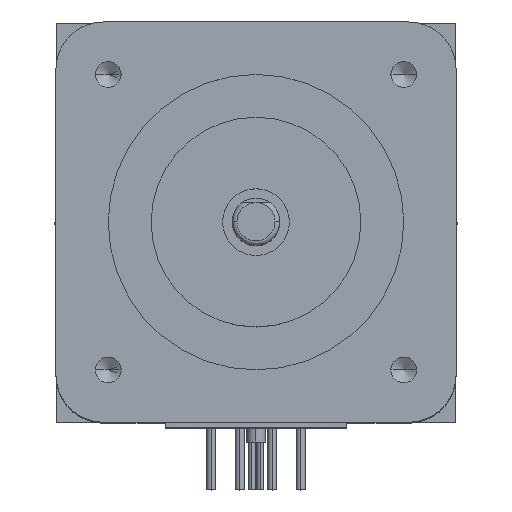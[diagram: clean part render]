
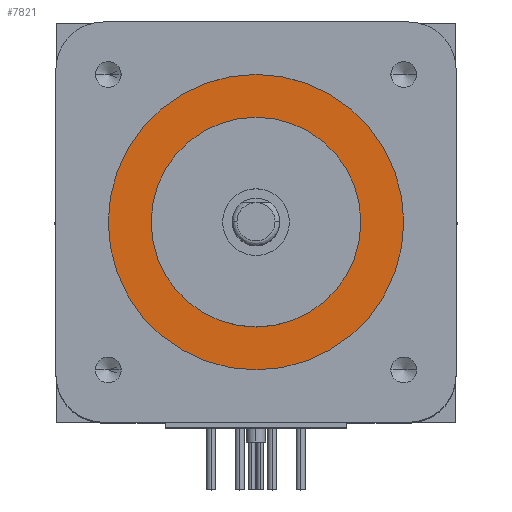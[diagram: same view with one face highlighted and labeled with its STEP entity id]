
A CAD part, top view. The second image highlights one B-rep face of the part: STEP entity #7821.
In plain terms, the highlighted planar face has unit normal (0, 0, 1).
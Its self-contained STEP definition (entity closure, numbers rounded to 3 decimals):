
#26 = EDGE_CURVE ( 'NONE', #1053, #608, #937, .T. ) ;
#192 = DIRECTION ( 'NONE',  ( 0., 0., 1. ) ) ;
#329 = FACE_BOUND ( 'NONE', #7338, .T. ) ;
#351 = ORIENTED_EDGE ( 'NONE', *, *, #1008, .F. ) ;
#460 = CIRCLE ( 'NONE', #7556, 15.5 ) ;
#489 = DIRECTION ( 'NONE',  ( 0., 0., -1. ) ) ;
#543 = DIRECTION ( 'NONE',  ( -1., 0., 0. ) ) ;
#608 = VERTEX_POINT ( 'NONE', #4290 ) ;
#823 = ORIENTED_EDGE ( 'NONE', *, *, #5346, .T. ) ;
#937 = CIRCLE ( 'NONE', #3228, 15.5 ) ;
#1008 = EDGE_CURVE ( 'NONE', #5342, #2122, #4651, .T. ) ;
#1053 = VERTEX_POINT ( 'NONE', #7610 ) ;
#1369 = AXIS2_PLACEMENT_3D ( 'NONE', #7153, #489, #543 ) ;
#1515 = CARTESIAN_POINT ( 'NONE',  ( 11., 0., -0.1 ) ) ;
#1598 = DIRECTION ( 'NONE',  ( 1., 0., 0. ) ) ;
#1746 = DIRECTION ( 'NONE',  ( 0., 0., 1. ) ) ;
#1810 = CIRCLE ( 'NONE', #6995, 11. ) ;
#2122 = VERTEX_POINT ( 'NONE', #1515 ) ;
#2131 = EDGE_LOOP ( 'NONE', ( #5294, #823 ) ) ;
#2209 = DIRECTION ( 'NONE',  ( 0., 0., 1. ) ) ;
#2610 = EDGE_CURVE ( 'NONE', #2122, #5342, #1810, .T. ) ;
#2842 = CARTESIAN_POINT ( 'NONE',  ( 0., 0., -0.1 ) ) ;
#2854 = CARTESIAN_POINT ( 'NONE',  ( -11., 0., -0.1 ) ) ;
#3019 = CARTESIAN_POINT ( 'NONE',  ( 0., 0., -0.1 ) ) ;
#3228 = AXIS2_PLACEMENT_3D ( 'NONE', #7627, #4361, #1598 ) ;
#3462 = ORIENTED_EDGE ( 'NONE', *, *, #2610, .F. ) ;
#3751 = AXIS2_PLACEMENT_3D ( 'NONE', #2842, #192, #4168 ) ;
#3788 = DIRECTION ( 'NONE',  ( -1., 0., 0. ) ) ;
#4096 = FACE_OUTER_BOUND ( 'NONE', #2131, .T. ) ;
#4168 = DIRECTION ( 'NONE',  ( -1., 0., 0. ) ) ;
#4290 = CARTESIAN_POINT ( 'NONE',  ( -15.5, 0., -0.1 ) ) ;
#4361 = DIRECTION ( 'NONE',  ( 0., 0., 1. ) ) ;
#4651 = CIRCLE ( 'NONE', #3751, 11. ) ;
#5294 = ORIENTED_EDGE ( 'NONE', *, *, #26, .T. ) ;
#5342 = VERTEX_POINT ( 'NONE', #2854 ) ;
#5346 = EDGE_CURVE ( 'NONE', #608, #1053, #460, .T. ) ;
#6534 = PLANE ( 'NONE',  #1369 ) ;
#6995 = AXIS2_PLACEMENT_3D ( 'NONE', #3019, #1746, #3788 ) ;
#7153 = CARTESIAN_POINT ( 'NONE',  ( 0., 0., -0.1 ) ) ;
#7338 = EDGE_LOOP ( 'NONE', ( #351, #3462 ) ) ;
#7556 = AXIS2_PLACEMENT_3D ( 'NONE', #8207, #2209, #8292 ) ;
#7610 = CARTESIAN_POINT ( 'NONE',  ( 15.5, 0., -0.1 ) ) ;
#7627 = CARTESIAN_POINT ( 'NONE',  ( 0., 0., -0.1 ) ) ;
#7821 = ADVANCED_FACE ( 'NONE', ( #329, #4096 ), #6534, .F. ) ;
#8207 = CARTESIAN_POINT ( 'NONE',  ( 0., 0., -0.1 ) ) ;
#8292 = DIRECTION ( 'NONE',  ( 1., 0., 0. ) ) ;
